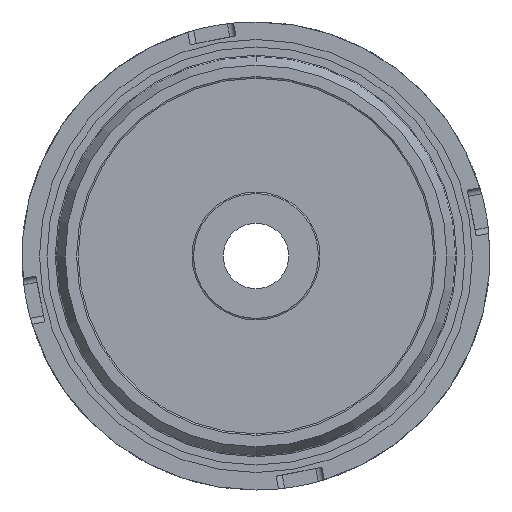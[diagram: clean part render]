
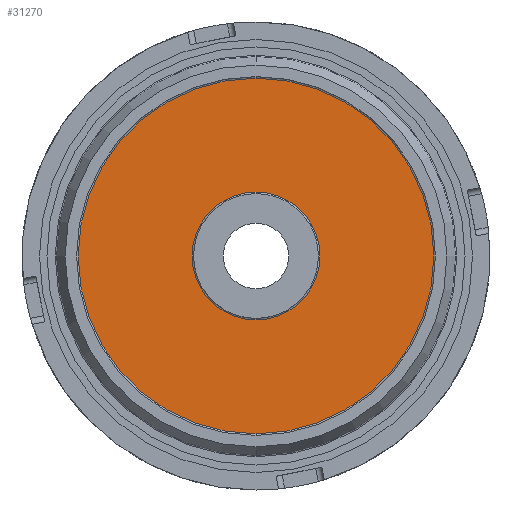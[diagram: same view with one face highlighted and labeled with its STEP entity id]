
A CAD part, front view. The second image highlights one B-rep face of the part: STEP entity #31270.
In plain terms, the highlighted planar face has unit normal (0, -1, 0).
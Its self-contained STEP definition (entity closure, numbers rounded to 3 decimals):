
#1418 = CARTESIAN_POINT ( 'NONE',  ( 0., 6., -57. ) ) ;
#1522 = CIRCLE ( 'NONE', #25831, 57. ) ;
#4086 = CIRCLE ( 'NONE', #30827, 20.5 ) ;
#4990 = EDGE_CURVE ( 'NONE', #24417, #17308, #35531, .T. ) ;
#5880 = DIRECTION ( 'NONE',  ( 0., -1., 0. ) ) ;
#7540 = CIRCLE ( 'NONE', #66190, 57. ) ;
#9743 = CARTESIAN_POINT ( 'NONE',  ( 0., 6., 0. ) ) ;
#12885 = DIRECTION ( 'NONE',  ( 0., -1., 0. ) ) ;
#14915 = DIRECTION ( 'NONE',  ( 0., -1., 0. ) ) ;
#16558 = ORIENTED_EDGE ( 'NONE', *, *, #17597, .T. ) ;
#16805 = ORIENTED_EDGE ( 'NONE', *, *, #40457, .T. ) ;
#17308 = VERTEX_POINT ( 'NONE', #40978 ) ;
#17597 = EDGE_CURVE ( 'NONE', #34063, #59376, #1522, .T. ) ;
#19805 = PLANE ( 'NONE',  #45997 ) ;
#20241 = EDGE_LOOP ( 'NONE', ( #16558, #16805 ) ) ;
#22419 = EDGE_CURVE ( 'NONE', #17308, #24417, #4086, .T. ) ;
#24417 = VERTEX_POINT ( 'NONE', #43852 ) ;
#24552 = CARTESIAN_POINT ( 'NONE',  ( 0., 6., 0. ) ) ;
#25153 = AXIS2_PLACEMENT_3D ( 'NONE', #34472, #33616, #31966 ) ;
#25831 = AXIS2_PLACEMENT_3D ( 'NONE', #43382, #12885, #48567 ) ;
#25993 = ORIENTED_EDGE ( 'NONE', *, *, #4990, .T. ) ;
#29683 = DIRECTION ( 'NONE',  ( 0., 0., -1. ) ) ;
#30827 = AXIS2_PLACEMENT_3D ( 'NONE', #24552, #60408, #29683 ) ;
#31270 = ADVANCED_FACE ( 'NONE', ( #63421, #65029 ), #19805, .T. ) ;
#31966 = DIRECTION ( 'NONE',  ( 0., 0., -1. ) ) ;
#33616 = DIRECTION ( 'NONE',  ( 0., 1., 0. ) ) ;
#34063 = VERTEX_POINT ( 'NONE', #1418 ) ;
#34472 = CARTESIAN_POINT ( 'NONE',  ( 0., 6., 0. ) ) ;
#35531 = CIRCLE ( 'NONE', #25153, 20.5 ) ;
#36455 = CARTESIAN_POINT ( 'NONE',  ( 0., 6., 0. ) ) ;
#37083 = CARTESIAN_POINT ( 'NONE',  ( 0., 6., 57. ) ) ;
#40457 = EDGE_CURVE ( 'NONE', #59376, #34063, #7540, .T. ) ;
#40978 = CARTESIAN_POINT ( 'NONE',  ( 0., 6., 20.5 ) ) ;
#41571 = DIRECTION ( 'NONE',  ( 0., 0., -1. ) ) ;
#43382 = CARTESIAN_POINT ( 'NONE',  ( 0., 6., 0. ) ) ;
#43852 = CARTESIAN_POINT ( 'NONE',  ( 0., 6., -20.5 ) ) ;
#45997 = AXIS2_PLACEMENT_3D ( 'NONE', #9743, #14915, #50590 ) ;
#47309 = ORIENTED_EDGE ( 'NONE', *, *, #22419, .T. ) ;
#48567 = DIRECTION ( 'NONE',  ( 0., 0., -1. ) ) ;
#50590 = DIRECTION ( 'NONE',  ( 0., 0., -1. ) ) ;
#57129 = EDGE_LOOP ( 'NONE', ( #25993, #47309 ) ) ;
#59376 = VERTEX_POINT ( 'NONE', #37083 ) ;
#60408 = DIRECTION ( 'NONE',  ( 0., 1., 0. ) ) ;
#63421 = FACE_OUTER_BOUND ( 'NONE', #20241, .T. ) ;
#65029 = FACE_BOUND ( 'NONE', #57129, .T. ) ;
#66190 = AXIS2_PLACEMENT_3D ( 'NONE', #36455, #5880, #41571 ) ;
